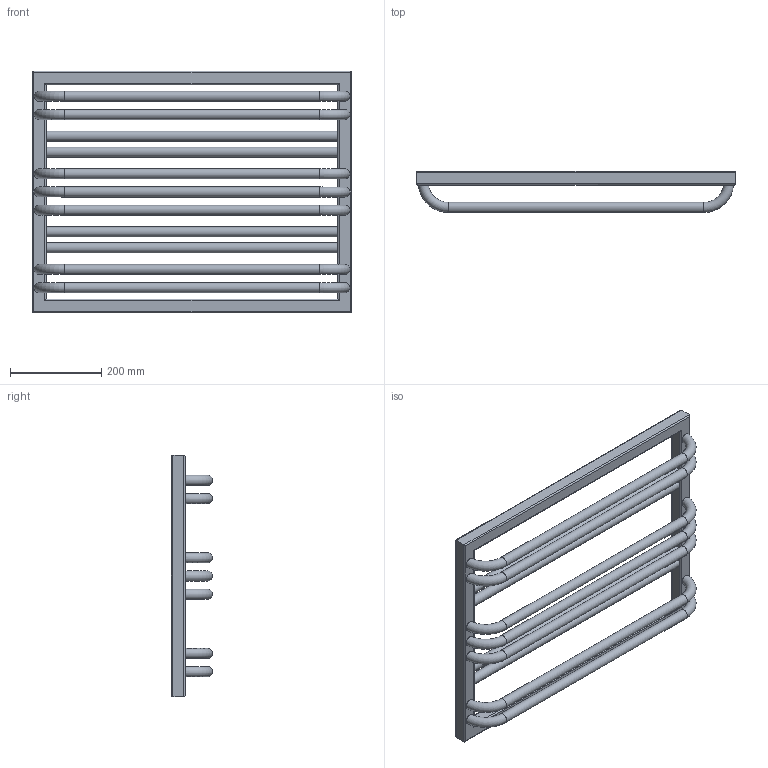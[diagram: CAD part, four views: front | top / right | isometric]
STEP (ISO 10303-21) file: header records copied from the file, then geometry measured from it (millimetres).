
FILE_DESCRIPTION((''),'2;1');
FILE_NAME('Z:\R\G\P\RGPH18 - Grzejnik POC\Work\Inventor\POC 1-6-8 v2.0\Marketing\AutoCad 3D\POC-530-700-1-6-8.stp','2012-07-12T14:39:49',('KurKa'),(''),'Autodesk Inventor 2012','Autodesk Inventor 2012','');
FILE_SCHEMA(('AUTOMOTIVE_DESIGN { 1 0 10303 214 1 1 1 1 }'));
Length unit declared in the file: millimetre
Products named in the file (1): POC-530-700-1-6-8
Bounding box: 700 x 90 x 530 mm (x, y, z)
Volume: 4973605.9 mm3; surface area: 787976.6 mm2
Topology: 1 solids, 1 shells, 60 faces, 146 edges, 91 vertices
Faces by surface type: cylinder 30, torus 17, plane 13
Full cylindrical faces by diameter (mm): 18.631 x3, 22 x11
Entity records: 2420 total; most frequent: CARTESIAN_POINT 1149, DIRECTION 256, ORIENTED_EDGE 202, EDGE_LOOP 118, AXIS2_PLACEMENT_3D 108, EDGE_CURVE 101, VERTEX_POINT 77, FACE_OUTER_BOUND 60
